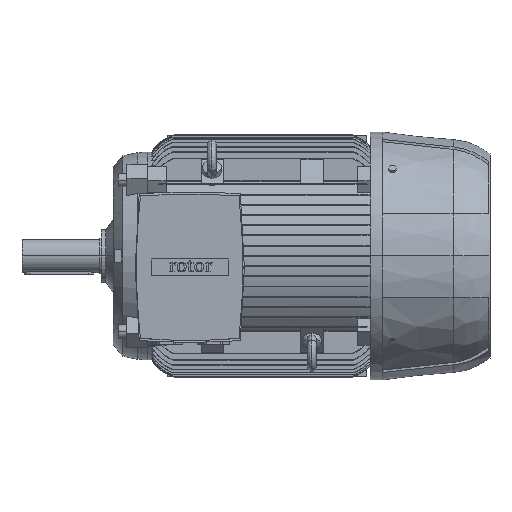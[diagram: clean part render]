
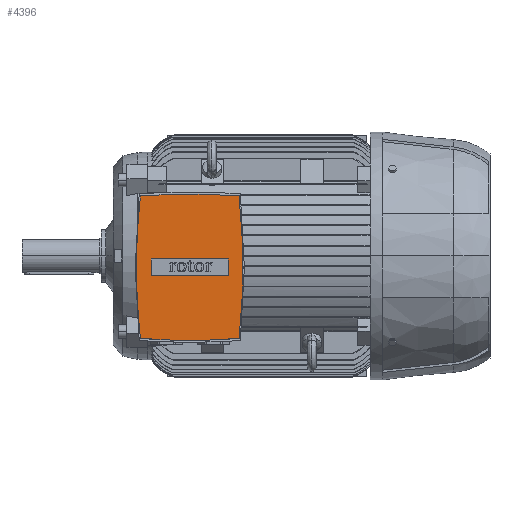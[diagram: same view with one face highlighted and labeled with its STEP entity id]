
A CAD part, top view. The second image highlights one B-rep face of the part: STEP entity #4396.
In plain terms, the highlighted planar face has unit normal (0, 0, 1).
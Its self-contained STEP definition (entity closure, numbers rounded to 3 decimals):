
#311 = EDGE_CURVE ( 'NONE', #21088, #7973, #9953, .T. ) ;
#382 = CIRCLE ( 'NONE', #25843, 1170.4 ) ;
#937 = EDGE_CURVE ( 'NONE', #24513, #27156, #1707, .T. ) ;
#1707 = CIRCLE ( 'NONE', #3580, 1217.46 ) ;
#1714 = CARTESIAN_POINT ( 'NONE',  ( 76., 1063.96, 338. ) ) ;
#1745 = VERTEX_POINT ( 'NONE', #48207 ) ;
#1808 = LINE ( 'NONE', #37758, #33875 ) ;
#2891 = CARTESIAN_POINT ( 'NONE',  ( 1149.9, -21., 338. ) ) ;
#3580 = AXIS2_PLACEMENT_3D ( 'NONE', #1714, #10420, #9206 ) ;
#4396 = ADVANCED_FACE ( 'NONE', ( #6264, #47688 ), #52499, .T. ) ;
#4851 = VERTEX_POINT ( 'NONE', #32862 ) ;
#5996 = AXIS2_PLACEMENT_3D ( 'NONE', #11463, #11419, #11349 ) ;
#6264 = FACE_OUTER_BOUND ( 'NONE', #44884, .T. ) ;
#7263 = DIRECTION ( 'NONE',  ( -1., 0., 0. ) ) ;
#7973 = VERTEX_POINT ( 'NONE', #51463 ) ;
#8443 = DIRECTION ( 'NONE',  ( 0., 0., -1. ) ) ;
#8474 = DIRECTION ( 'NONE',  ( 1., 0., 0. ) ) ;
#8646 = CARTESIAN_POINT ( 'NONE',  ( 146., -6., 338. ) ) ;
#9206 = DIRECTION ( 'NONE',  ( -1., 0., 0. ) ) ;
#9953 = CIRCLE ( 'NONE', #5996, 1217.46 ) ;
#10148 = ORIENTED_EDGE ( 'NONE', *, *, #311, .F. ) ;
#10420 = DIRECTION ( 'NONE',  ( 0., 0., -1. ) ) ;
#11349 = DIRECTION ( 'NONE',  ( -1., 0., 0. ) ) ;
#11419 = DIRECTION ( 'NONE',  ( 0., 0., -1. ) ) ;
#11463 = CARTESIAN_POINT ( 'NONE',  ( 76., -1105.96, 338. ) ) ;
#11620 = CARTESIAN_POINT ( 'NONE',  ( 146., -36., 338. ) ) ;
#11729 = DIRECTION ( 'NONE',  ( -1., 0., 0. ) ) ;
#14426 = DIRECTION ( 'NONE',  ( 0., 0., -1. ) ) ;
#16163 = CARTESIAN_POINT ( 'NONE',  ( -20.5, -21., 338. ) ) ;
#17110 = VECTOR ( 'NONE', #35774, 1000. ) ;
#17172 = LINE ( 'NONE', #40292, #17110 ) ;
#17416 = AXIS2_PLACEMENT_3D ( 'NONE', #2891, #33405, #7263 ) ;
#18474 = VECTOR ( 'NONE', #44566, 1000. ) ;
#20082 = ORIENTED_EDGE ( 'NONE', *, *, #53940, .F. ) ;
#20943 = ORIENTED_EDGE ( 'NONE', *, *, #55813, .T. ) ;
#20988 = EDGE_CURVE ( 'NONE', #27156, #53703, #382, .T. ) ;
#21088 = VERTEX_POINT ( 'NONE', #36835 ) ;
#21761 = ORIENTED_EDGE ( 'NONE', *, *, #20988, .F. ) ;
#22820 = CARTESIAN_POINT ( 'NONE',  ( 165.345, -150.217, 338. ) ) ;
#23773 = ORIENTED_EDGE ( 'NONE', *, *, #27264, .T. ) ;
#24513 = VERTEX_POINT ( 'NONE', #22820 ) ;
#25112 = ORIENTED_EDGE ( 'NONE', *, *, #32275, .T. ) ;
#25843 = AXIS2_PLACEMENT_3D ( 'NONE', #40402, #14426, #44706 ) ;
#27156 = VERTEX_POINT ( 'NONE', #41919 ) ;
#27264 = EDGE_CURVE ( 'NONE', #4851, #40363, #42750, .T. ) ;
#28137 = EDGE_LOOP ( 'NONE', ( #23773, #25112, #20943, #50469 ) ) ;
#29224 = EDGE_CURVE ( 'NONE', #1745, #4851, #17172, .T. ) ;
#32094 = VERTEX_POINT ( 'NONE', #11620 ) ;
#32275 = EDGE_CURVE ( 'NONE', #40363, #32094, #48872, .T. ) ;
#32862 = CARTESIAN_POINT ( 'NONE',  ( 6., -6., 338. ) ) ;
#33405 = DIRECTION ( 'NONE',  ( 0., 0., -1. ) ) ;
#33875 = VECTOR ( 'NONE', #11729, 1000. ) ;
#34522 = CARTESIAN_POINT ( 'NONE',  ( -997.9, -21., 338. ) ) ;
#34564 = CARTESIAN_POINT ( 'NONE',  ( 76., -6., 338. ) ) ;
#35774 = DIRECTION ( 'NONE',  ( 0., 1., 0. ) ) ;
#36835 = CARTESIAN_POINT ( 'NONE',  ( -13.345, 108.217, 338. ) ) ;
#37758 = CARTESIAN_POINT ( 'NONE',  ( 76., -36., 338. ) ) ;
#38874 = DIRECTION ( 'NONE',  ( -1., 0., 0. ) ) ;
#39859 = AXIS2_PLACEMENT_3D ( 'NONE', #52730, #52313, #52191 ) ;
#40272 = CARTESIAN_POINT ( 'NONE',  ( 146., -21., 338. ) ) ;
#40292 = CARTESIAN_POINT ( 'NONE',  ( 6., -21., 338. ) ) ;
#40363 = VERTEX_POINT ( 'NONE', #8646 ) ;
#40402 = CARTESIAN_POINT ( 'NONE',  ( 1149.9, -21., 338. ) ) ;
#41919 = CARTESIAN_POINT ( 'NONE',  ( -13.345, -150.217, 338. ) ) ;
#42392 = AXIS2_PLACEMENT_3D ( 'NONE', #34522, #8443, #38874 ) ;
#42537 = ORIENTED_EDGE ( 'NONE', *, *, #937, .F. ) ;
#42750 = LINE ( 'NONE', #34564, #43100 ) ;
#43100 = VECTOR ( 'NONE', #8474, 1000. ) ;
#44566 = DIRECTION ( 'NONE',  ( 0., -1., 0. ) ) ;
#44706 = DIRECTION ( 'NONE',  ( -1., 0., 0. ) ) ;
#44743 = CIRCLE ( 'NONE', #17416, 1170.4 ) ;
#44884 = EDGE_LOOP ( 'NONE', ( #10148, #52412, #21761, #42537, #20082 ) ) ;
#47322 = EDGE_CURVE ( 'NONE', #53703, #21088, #44743, .T. ) ;
#47688 = FACE_BOUND ( 'NONE', #28137, .T. ) ;
#48207 = CARTESIAN_POINT ( 'NONE',  ( 6., -36., 338. ) ) ;
#48872 = LINE ( 'NONE', #40272, #18474 ) ;
#50469 = ORIENTED_EDGE ( 'NONE', *, *, #29224, .T. ) ;
#51463 = CARTESIAN_POINT ( 'NONE',  ( 165.345, 108.217, 338. ) ) ;
#52191 = DIRECTION ( 'NONE',  ( 1., 0., 0. ) ) ;
#52313 = DIRECTION ( 'NONE',  ( 0., 0., 1. ) ) ;
#52412 = ORIENTED_EDGE ( 'NONE', *, *, #47322, .F. ) ;
#52499 = PLANE ( 'NONE',  #39859 ) ;
#52730 = CARTESIAN_POINT ( 'NONE',  ( 76., -21., 338. ) ) ;
#53601 = CIRCLE ( 'NONE', #42392, 1170.4 ) ;
#53703 = VERTEX_POINT ( 'NONE', #16163 ) ;
#53940 = EDGE_CURVE ( 'NONE', #7973, #24513, #53601, .T. ) ;
#55813 = EDGE_CURVE ( 'NONE', #32094, #1745, #1808, .T. ) ;
